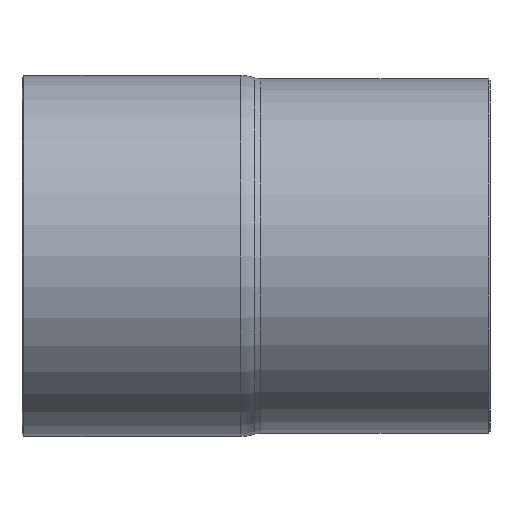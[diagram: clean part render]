
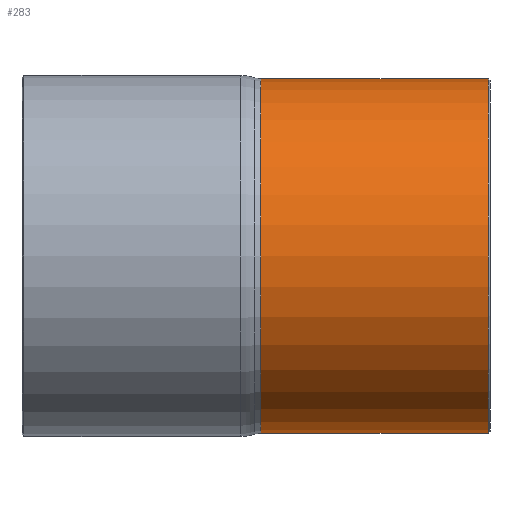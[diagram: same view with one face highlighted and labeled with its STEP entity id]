
A CAD part, front view. The second image highlights one B-rep face of the part: STEP entity #283.
In plain terms, the highlighted cylindrical face has radius 20.253 mm (diameter 40.505 mm), a full revolution.
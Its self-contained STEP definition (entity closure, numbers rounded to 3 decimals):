
#249=CARTESIAN_POINT('',(22.8,20.252,0.));
#250=VERTEX_POINT('',#249);
#251=CARTESIAN_POINT('',(22.8,0.0,0.0));
#252=DIRECTION('',(1.0,0.0,0.0));
#253=DIRECTION('',(0.0,-1.0,0.0));
#254=AXIS2_PLACEMENT_3D('',#251,#252,#253);
#255=CIRCLE('',#254,20.252);
#256=EDGE_CURVE('',#250,#250,#255,.T.);
#264=CARTESIAN_POINT('',(9.895,0.0,0.0));
#265=DIRECTION('',(1.0,0.0,0.0));
#266=DIRECTION('',(0.0,1.0,0.0));
#267=AXIS2_PLACEMENT_3D('',#264,#265,#266);
#268=CYLINDRICAL_SURFACE('',#267,20.252);
#269=CARTESIAN_POINT('',(-3.211,20.252,0.0));
#270=VERTEX_POINT('',#269);
#271=CARTESIAN_POINT('',(-3.211,0.0,0.0));
#272=DIRECTION('',(1.0,0.0,0.0));
#273=DIRECTION('',(0.0,1.0,0.0));
#274=AXIS2_PLACEMENT_3D('',#271,#272,#273);
#275=CIRCLE('',#274,20.252);
#276=EDGE_CURVE('',#270,#270,#275,.T.);
#277=ORIENTED_EDGE('',*,*,#276,.T.);
#278=EDGE_LOOP('',(#277));
#279=FACE_OUTER_BOUND('',#278,.T.);
#280=ORIENTED_EDGE('',*,*,#256,.F.);
#281=EDGE_LOOP('',(#280));
#282=FACE_BOUND('',#281,.T.);
#283=ADVANCED_FACE('',(#279,#282),#268,.T.);
